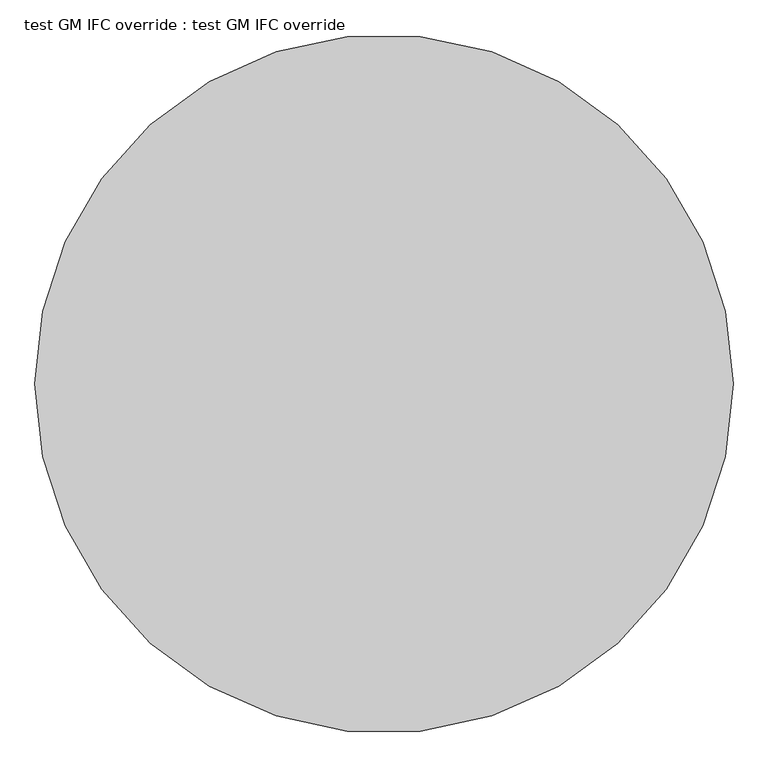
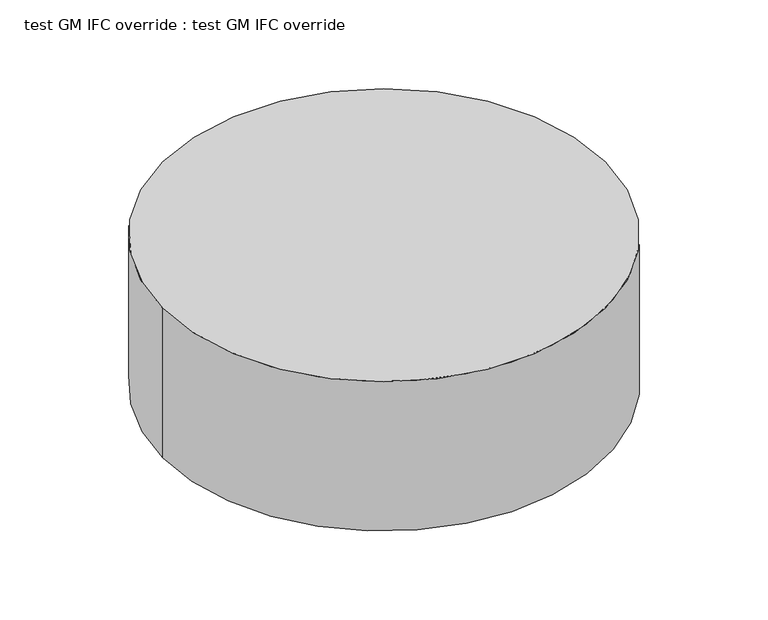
"""IFC4 building model written with IfcOpenShell, lengths in millimetres: proxy geometry, test GM IFC override : test GM IFC override."""

from ifc_helpers import new_model, si_unit, point, frame_2d, origin, origin_with_axes, place, context, project, spatial, circle_curve, trimmed, segment, composite_curve, outline, extrude, source, transform, mapped, element, save


def test_gm_ifc_override_test_gm_ifc_override_1e6546c9(model_context):
    return source(origin(), model_context, "Body", "SweptSolid", [
        extrude(outline(composite_curve([segment(trimmed(circle_curve(frame_2d((-11601.9354839, -1739.1397849)), 1400.0), [point((-13001.9354839, -1739.1397849))], [point((-10201.9354839, -1739.1397849))], False, "CARTESIAN"), True, "CONTINUOUS"), segment(trimmed(circle_curve(frame_2d((-11601.9354839, -1739.1397849)), 1400.0), [point((-10201.9354839, -1739.1397849))], [point((-13001.9354839, -1739.1397849))], False, "CARTESIAN"), True, "CONTINUOUS")], self_intersect=False)), origin_with_axes(), (0.0, 0.0, 1.0), 1000.0),
    ])


if __name__ == "__main__":
    model = new_model("IFC4")
    model_context = context("Model", 3, world=origin())
    ifc_project = project(units=[si_unit("LENGTHUNIT", "METRE", prefix="MILLI")], contexts=[model_context])
    site = spatial("IfcSite", under=ifc_project)
    building = spatial("IfcBuilding", under=site)
    placement = place(None, origin())
    test_gm_ifc_override_test_gm_ifc_override_shape = test_gm_ifc_override_test_gm_ifc_override_1e6546c9(model_context)
    element("IfcBuildingElementProxy", 1, Name="test GM IFC override : test GM IFC override", ObjectType="test GM IFC override : test GM IFC override", at=placement, inside=building, context=model_context, shape_type="MappedRepresentation", body=[
        mapped(test_gm_ifc_override_test_gm_ifc_override_shape, transform((0.0, 0.0, 0.0), x_axis=(1.0, 0.0, 0.0), y_axis=(0.0, 1.0, 0.0), z_axis=(0.0, 0.0, 1.0))),
    ])
    save(model, "model.ifc")
